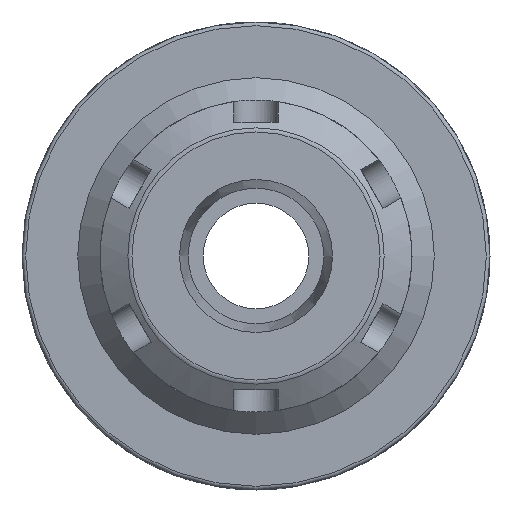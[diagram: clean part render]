
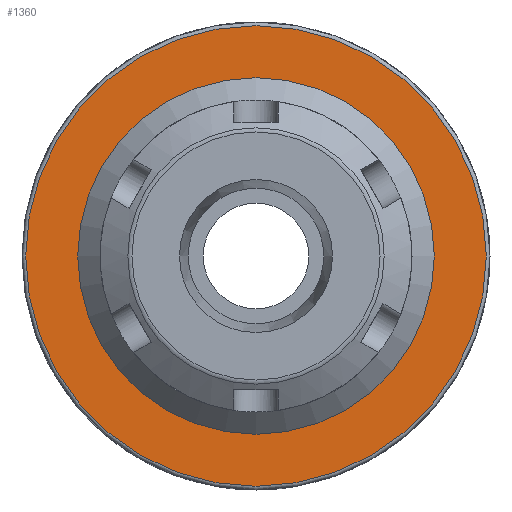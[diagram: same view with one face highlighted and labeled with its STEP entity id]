
A CAD part, front view. The second image highlights one B-rep face of the part: STEP entity #1360.
In plain terms, the highlighted planar face has unit normal (0, -1, 0).
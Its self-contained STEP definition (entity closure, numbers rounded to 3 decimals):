
#128=FACE_BOUND('',#263,.T.);
#141=PLANE('',#1514);
#181=FACE_OUTER_BOUND('',#262,.T.);
#262=EDGE_LOOP('',(#947));
#263=EDGE_LOOP('',(#948));
#509=CIRCLE('',#1511,24.);
#512=CIRCLE('',#1515,31.);
#588=VERTEX_POINT('',#2087);
#591=VERTEX_POINT('',#2095);
#730=EDGE_CURVE('',#588,#588,#509,.T.);
#734=EDGE_CURVE('',#591,#591,#512,.T.);
#947=ORIENTED_EDGE('',*,*,#734,.F.);
#948=ORIENTED_EDGE('',*,*,#730,.F.);
#1360=ADVANCED_FACE('',(#181,#128),#141,.T.);
#1511=AXIS2_PLACEMENT_3D('',#2088,#1688,#1689);
#1514=AXIS2_PLACEMENT_3D('',#2094,#1695,#1696);
#1515=AXIS2_PLACEMENT_3D('',#2096,#1697,#1698);
#1688=DIRECTION('center_axis',(0.,-1.,0.));
#1689=DIRECTION('ref_axis',(-1.,0.,0.));
#1695=DIRECTION('center_axis',(0.,-1.,0.));
#1696=DIRECTION('ref_axis',(0.,0.,-1.));
#1697=DIRECTION('center_axis',(0.,1.,0.));
#1698=DIRECTION('ref_axis',(-1.,0.,0.));
#2087=CARTESIAN_POINT('',(24.,31.6,0.));
#2088=CARTESIAN_POINT('Origin',(0.,31.6,0.));
#2094=CARTESIAN_POINT('Origin',(31.5,31.6,0.));
#2095=CARTESIAN_POINT('',(0.,31.6,-31.));
#2096=CARTESIAN_POINT('Origin',(0.,31.6,0.));
